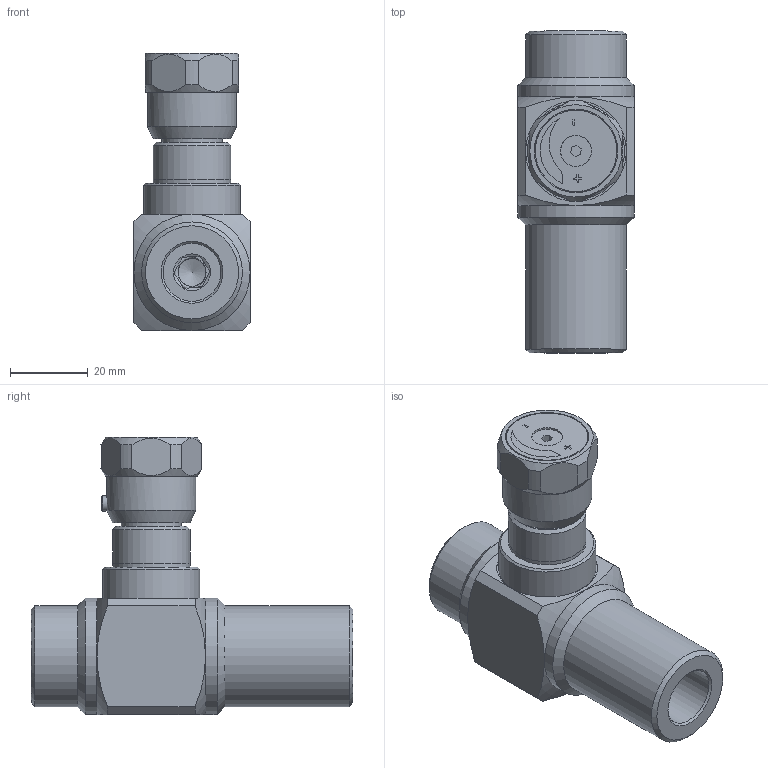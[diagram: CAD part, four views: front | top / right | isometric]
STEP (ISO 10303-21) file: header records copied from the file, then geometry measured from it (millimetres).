
FILE_DESCRIPTION(/* description */ ('Unknown'),/* implementation_level */ '2;1');
FILE_NAME(/* name */ 'STU38',/* time_stamp */ '2024-12-05T10:40:45+01:00',/* author */ ('Unknown'),/* organization */ ('Unknown'),/* preprocessor_version */ 'ST-DEVELOPER v19.4',/* originating_system */ 'Solid Edge',/* authorisation */ 'Unknown');
FILE_SCHEMA (('AUTOMOTIVE_DESIGN {1 0 10303 214 3 1 1}'));
Length unit declared in the file: millimetre
Products named in the file (1): STU38
Bounding box: 29.97 x 82.92 x 71.36 mm (x, y, z)
Volume: 60104.2 mm3; surface area: 20627.6 mm2
Topology: 2 solids, 2 shells, 174 faces, 425 edges, 278 vertices
Faces by surface type: plane 84, cylinder 48, cone 32, torus 9, bspline 1
Full cylindrical faces by diameter (mm): 3.996 x5, 7.492 x2, 7.992 x2, 8.242 x1, 8.492 x1, 8.991 x1, 9.99 x1, 10.989 x2, 11.988 x2, 14.935 x3, 14.985 x2, 15.485 x1, 16.983 x1, 17.982 x1, 19.98 x2, 20.979 x1, 21.479 x1, 22.977 x1, 24.975 x1, 25.974 x3, 29.97 x2
Entity records: 9038 total; most frequent: CARTESIAN_POINT 4365, DIRECTION 690, ORIENTED_EDGE 604, EDGE_CURVE 302, AXIS2_PLACEMENT_3D 288, FACE_BOUND 281, EDGE_LOOP 280, VERTEX_POINT 229
